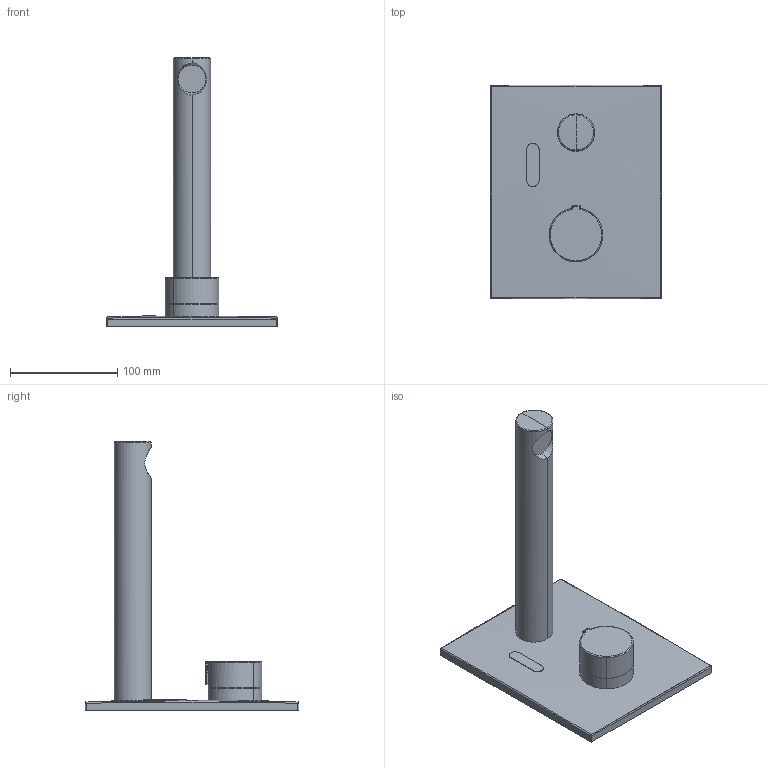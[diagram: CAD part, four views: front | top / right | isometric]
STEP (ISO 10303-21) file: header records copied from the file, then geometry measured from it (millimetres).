
FILE_DESCRIPTION (( 'STEP AP203' ), '1' );
FILE_NAME ('6208C(2009).STEP', '2019-02-15T11:00:40', ( '' ), ( '' ), 'SwSTEP 2.0', 'SolidWorks 2016', '' );
FILE_SCHEMA (( 'CONFIG_CONTROL_DESIGN' ));
Length unit declared in the file: millimetre
Products named in the file (1): 6208C(2009)
Bounding box: 159 x 199 x 250.33 mm (x, y, z)
Volume: 578655.2 mm3; surface area: 101153.2 mm2
Topology: 1 solids, 1 shells, 86 faces, 199 edges, 111 vertices
Faces by surface type: cylinder 33, plane 20, sphere 14, torus 10, bspline 7, cone 2
Entity records: 3010 total; most frequent: CARTESIAN_POINT 1085, DIRECTION 406, ORIENTED_EDGE 374, EDGE_CURVE 187, AXIS2_PLACEMENT_3D 169, VERTEX_POINT 107, EDGE_LOOP 90, CIRCLE 89
